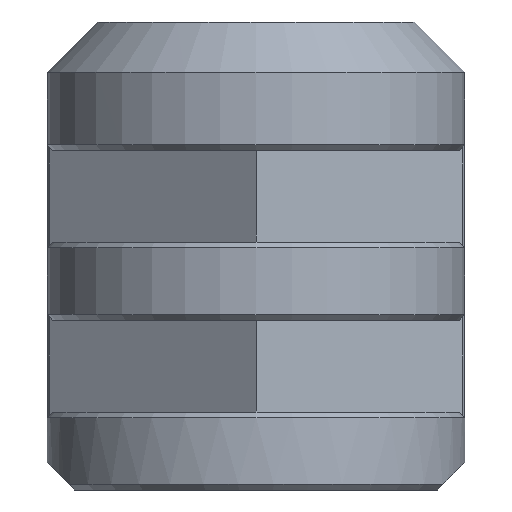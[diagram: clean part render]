
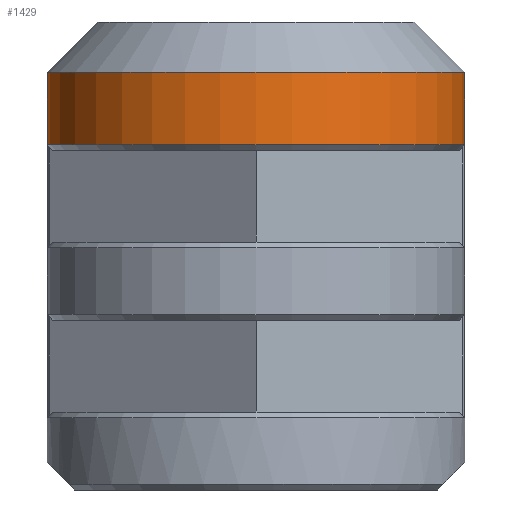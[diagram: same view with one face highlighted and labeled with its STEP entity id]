
A CAD part, left-side view. The second image highlights one B-rep face of the part: STEP entity #1429.
In plain terms, the highlighted cylindrical face has radius 7.5 mm (diameter 15 mm), a partial arc.
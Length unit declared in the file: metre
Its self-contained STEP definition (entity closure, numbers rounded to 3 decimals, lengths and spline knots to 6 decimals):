
#32=ELLIPSE('',#1534,0.010607,0.0075);
#33=ELLIPSE('',#1536,0.010607,0.0075);
#58=LINE('',#2093,#227);
#82=LINE('',#2148,#251);
#227=VECTOR('',#1674,1.);
#251=VECTOR('',#1712,1.);
#496=ORIENTED_EDGE('',*,*,#902,.T.);
#497=ORIENTED_EDGE('',*,*,#904,.T.);
#498=ORIENTED_EDGE('',*,*,#874,.F.);
#499=ORIENTED_EDGE('',*,*,#905,.T.);
#500=ORIENTED_EDGE('',*,*,#906,.T.);
#501=ORIENTED_EDGE('',*,*,#907,.T.);
#874=EDGE_CURVE('',#1080,#1081,#58,.T.);
#902=EDGE_CURVE('',#1105,#1104,#82,.T.);
#904=EDGE_CURVE('',#1104,#1081,#1197,.F.);
#905=EDGE_CURVE('',#1080,#1106,#32,.F.);
#906=EDGE_CURVE('',#1106,#1107,#1198,.F.);
#907=EDGE_CURVE('',#1107,#1105,#33,.T.);
#1080=VERTEX_POINT('',#2092);
#1081=VERTEX_POINT('',#2094);
#1104=VERTEX_POINT('',#2147);
#1105=VERTEX_POINT('',#2149);
#1106=VERTEX_POINT('',#2154);
#1107=VERTEX_POINT('',#2156);
#1197=CIRCLE('',#1533,0.0075);
#1198=CIRCLE('',#1535,0.0075);
#1228=EDGE_LOOP('',(#496,#497,#498,#499,#500,#501));
#1325=FACE_BOUND('',#1228,.T.);
#1415=CYLINDRICAL_SURFACE('',#1532,0.0075);
#1429=ADVANCED_FACE('',(#1325),#1415,.T.);
#1532=AXIS2_PLACEMENT_3D('',#2151,#1714,#1715);
#1533=AXIS2_PLACEMENT_3D('',#2152,#1716,#1717);
#1534=AXIS2_PLACEMENT_3D('',#2153,#1718,#1719);
#1535=AXIS2_PLACEMENT_3D('',#2155,#1720,#1721);
#1536=AXIS2_PLACEMENT_3D('',#2157,#1722,#1723);
#1674=DIRECTION('',(0.,0.,-1.));
#1712=DIRECTION('',(0.,0.,-1.));
#1714=DIRECTION('',(0.,0.,-1.));
#1715=DIRECTION('',(-1.,0.,0.));
#1716=DIRECTION('',(0.,0.,-1.));
#1717=DIRECTION('',(-1.,0.,0.));
#1718=DIRECTION('',(0.,0.707,-0.707));
#1719=DIRECTION('',(0.,-0.707,-0.707));
#1720=DIRECTION('',(0.,0.,1.));
#1721=DIRECTION('',(1.,0.,0.));
#1722=DIRECTION('',(0.,0.707,0.707));
#1723=DIRECTION('',(0.,0.707,-0.707));
#2092=CARTESIAN_POINT('',(-0.015,-0.0075,0.014));
#2093=CARTESIAN_POINT('',(-0.015,-0.0075,0.015));
#2094=CARTESIAN_POINT('',(-0.015,-0.0075,0.0124));
#2147=CARTESIAN_POINT('',(-0.015,0.0075,0.0124));
#2148=CARTESIAN_POINT('',(-0.015,0.0075,0.015));
#2149=CARTESIAN_POINT('',(-0.015,0.0075,0.014));
#2151=CARTESIAN_POINT('',(-0.015,0.,0.015));
#2152=CARTESIAN_POINT('',(-0.015,0.,0.0124));
#2153=CARTESIAN_POINT('',(-0.015,0.,0.0215));
#2154=CARTESIAN_POINT('',(-0.011258,-0.0065,0.015));
#2155=CARTESIAN_POINT('',(-0.015,0.,0.015));
#2156=CARTESIAN_POINT('',(-0.011258,0.0065,0.015));
#2157=CARTESIAN_POINT('',(-0.015,0.,0.0215));
